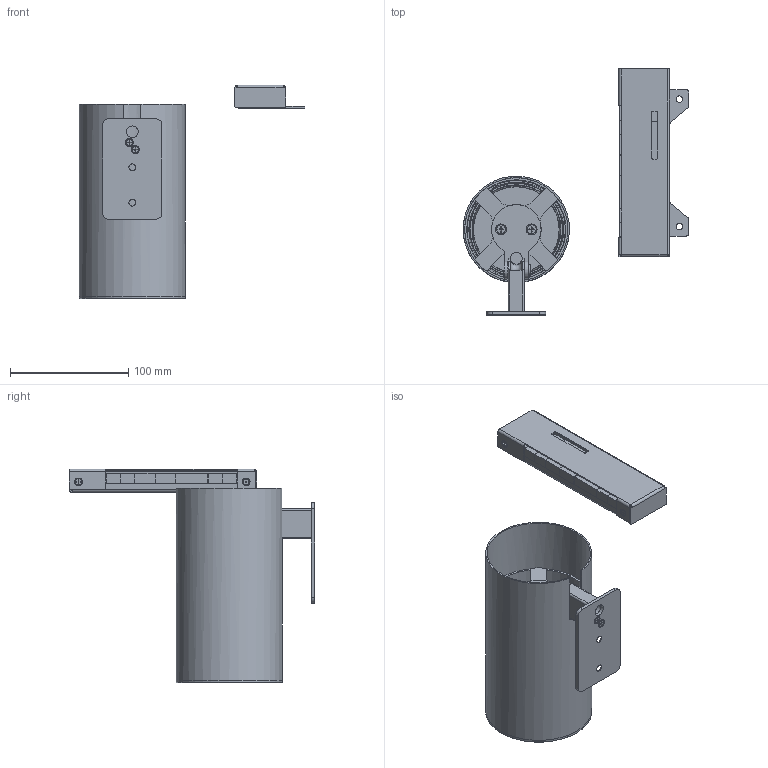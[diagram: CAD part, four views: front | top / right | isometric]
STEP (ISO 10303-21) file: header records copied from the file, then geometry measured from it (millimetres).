
FILE_DESCRIPTION(/* description */ ('Unknown'),/* implementation_level */ '2;1');
FILE_NAME(/* name */ '99018450 Ambiane SP16 Wall Mount Tilt 30° RAL9011',/* time_stamp */ '2024-02-29T09:12:39+01:00',/* author */ ('Unknown'),/* organization */ ('Unknown'),/* preprocessor_version */ 'ST-DEVELOPER v18.104',/* originating_system */ 'Solid Edge',/* authorisation */ 'Unknown');
FILE_SCHEMA (('AUTOMOTIVE_DESIGN {1 0 10303 214 3 1 1}'));
Length unit declared in the file: millimetre
Products named in the file (28): 99018450 Ambiane SP16 Wall Mount Tilt  30° RAL9011; 11431191 Z嫛鮀; 17042893 Oko lisování ; 18040002 Matice zálisná M5; 11019280 Deska 3; 11019279 Deska 2; 11019278 Deska 1; 12451999 Kryt vn靔氻 30st WMT; 18010032 Šr.køíž.zápustný M3x8; 99016551-03 Ambaine XP Pendant Remote driver; 17442164-03 Nosník elektroniky; 11417557-03 Nosník elektroniky; 18060263 Distanèní sloupek 3COM1-X-6; 18040018 Matice zálisná M3; 13032897-02 PCB RB3729-V6.1.C.1 Ambiane XP Pendant Remote; 11417837 Kryt elektroniky_Remote; 18050064 Vìjíøovka pr 3 zápustná; 18010033 Šr.køíž.zápustný M3x6; 18550011 V骹薠ovka pr 3; 18010008 Šr.Køíž.pulkul. M3x8; 11419288 Køíž; 11419318-01 Základna WMT; 19520471 Adaptér SP; 18010120 Šroub køížový zápustný M4x16; 12452000 Rameno 30st WMT; 18010375 Šroub záp, s vnitø, šestihr, M 5x22 èZnNi; 14061273 Sklo Ambiane SP D73 tl.3; 12451928 Pøední díl - SPP- obrábìní
Assembly tree (40 placements, depth 4):
  99018450 Ambiane SP16 Wall Mount Tilt  30° RAL9011
    11431191 Z嫛鮀
      17042893 Oko lisování 
        18040002 Matice zálisná M5
        11019280 Deska 3
      11019279 Deska 2
      11019278 Deska 1
    12451999 Kryt vn靔氻 30st WMT
    18010032 Šr.køíž.zápustný M3x8  x2
    99016551-03 Ambaine XP Pendant Remote driver
      17442164-03 Nosník elektroniky
        11417557-03 Nosník elektroniky
        18060263 Distanèní sloupek 3COM1-X-6  x2
        18040018 Matice zálisná M3  x4
      13032897-02 PCB RB3729-V6.1.C.1 Ambiane XP Pendant Remote
      11417837 Kryt elektroniky_Remote
      18050064 Vìjíøovka pr 3 zápustná  x4
      18010033 Šr.køíž.zápustný M3x6  x4
      18550011 V骹薠ovka pr 3
      18010008 Šr.Køíž.pulkul. M3x8  x2
    11419288 Køíž
    11419318-01 Základna WMT
    19520471 Adaptér SP
    18010120 Šroub køížový zápustný M4x16  x2
    12452000 Rameno 30st WMT
    18010375 Šroub záp, s vnitø, šestihr, M 5x22 èZnNi
    14061273 Sklo Ambiane SP D73 tl.3
    12451928 Pøední díl - SPP- obrábìní
Bounding box: 191.14 x 208.28 x 180.94 mm (x, y, z)
Volume: 229638.3 mm3; surface area: 206173.5 mm2
Topology: 36 solids, 36 shells, 1842 faces, 4633 edges, 3014 vertices
Faces by surface type: plane 1298, cylinder 315, cone 106, torus 92, sphere 28, bspline 3
Full cylindrical faces by diameter (mm): 0.97 x24, 1.4 x23, 2.459 x4, 2.5 x4, 3 x8, 3.135 x2, 3.2 x7, 3.4 x2, 4 x3, 4.2 x5, 4.22 x4, 4.3 x6, 4.5 x2, 5 x1, 5.2 x1, 5.3 x1, 5.5 x8, 5.6 x2, 5.8 x2, 6.3 x4, 6.4 x1, 6.5 x1, 7.5 x2, 9 x1, 10 x3, 12 x1, 73 x1, 83.2 x1, 84 x1, 87.5 x1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
Entity records: 50542 total; most frequent: CARTESIAN_POINT 9295, ORIENTED_EDGE 7068, DIRECTION 6855, EDGE_CURVE 3534, LINE 2465, VECTOR 2465, VERTEX_POINT 2364, AXIS2_PLACEMENT_3D 2195
